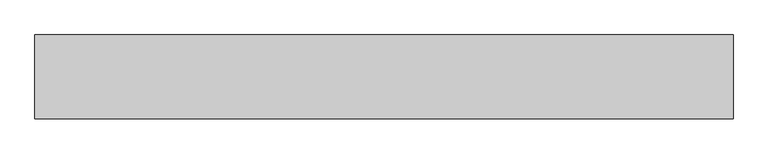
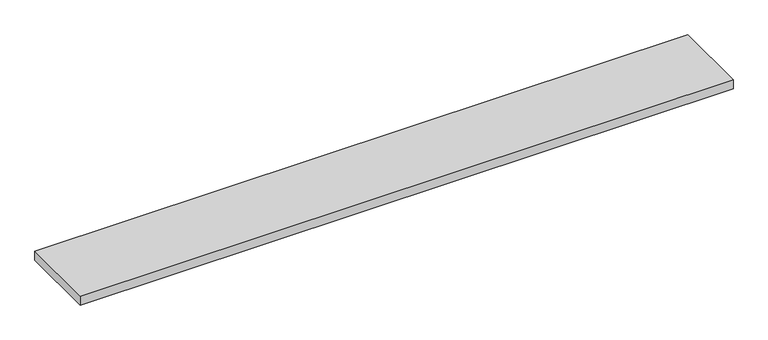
"""IFC4 building model written with IfcOpenShell, lengths in millimetres: proxy geometry, AK_アルミ足場板 AL-2_軽 : AK_アルミ足場板 AL-2_軽."""

from ifc_helpers import new_model, si_unit, origin, origin_with_axes, place, context, project, spatial, polyline, outline, extrude, source, transform, mapped, element, save


def generic_models_a3916c57(model_context):
    return source(origin(), model_context, "Body", "SweptSolid", [
        extrude(outline(polyline([(1999.9994951, 240.0), (1999.9994951, 0.0157988), (0.0, 0.0157988), (0.0, 240.0), (1999.9994951, 240.0)])), origin_with_axes(), (0.0, 0.0, 1.0), 29.0),
    ])


if __name__ == "__main__":
    model = new_model("IFC4")
    model_context = context("Model", 3, world=origin())
    ifc_project = project(units=[si_unit("LENGTHUNIT", "METRE", prefix="MILLI")], contexts=[model_context])
    site = spatial("IfcSite", under=ifc_project)
    building = spatial("IfcBuilding", under=site)
    placement = place(None, origin())
    generic_models_shape = generic_models_a3916c57(model_context)
    element("IfcBuildingElementProxy", 1, Name="AK_アルミ足場板 AL-2_軽 : AK_アルミ足場板 AL-2_軽", ObjectType="AK_アルミ足場板 AL-2_軽 : AK_アルミ足場板 AL-2_軽", at=placement, inside=building, context=model_context, shape_type="MappedRepresentation", body=[
        mapped(generic_models_shape, transform((0.0, 0.0, 0.0), x_axis=(1.0, 0.0, 0.0), y_axis=(0.0, 1.0, 0.0), z_axis=(0.0, 0.0, 1.0))),
    ])
    save(model, "model.ifc")
